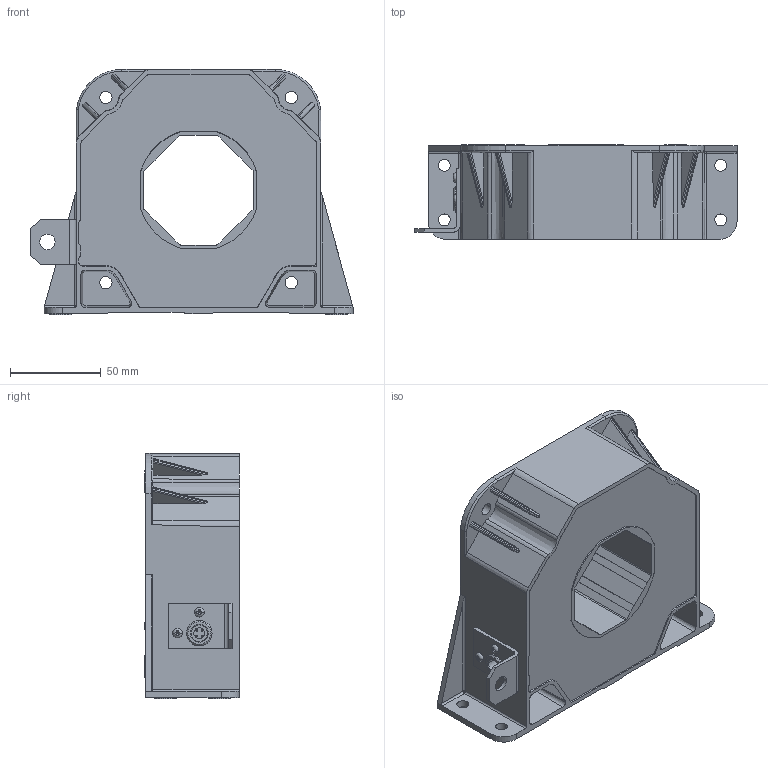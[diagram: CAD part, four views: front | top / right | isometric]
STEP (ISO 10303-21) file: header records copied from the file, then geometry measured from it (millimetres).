
FILE_DESCRIPTION(('CoCreate Modeling STEP Export'),'2;1');
FILE_NAME('LF 2005-S_SP1_blackbox.stp','2009-02-17T13:55:49',(''),(''),'CoCreate Modeling STEP processor for AP214 (Solid Model)','CoCreate Modeling 16.00A 16-Aug-2008 (C) Parametric Technology GmbH','');
FILE_SCHEMA(('AUTOMOTIVE_DESIGN { 1 0 10303 214 1 1 1 1 }'));
Length unit declared in the file: millimetre
Products named in the file (6): vis_PT_KA30x12.4; Boîtier_BLACKBOX; Ecran_type1; axson; connecteur; LF2005-S_SP1_blackbox
Assembly tree (6 placements, depth 2):
  LF2005-S_SP1_blackbox
    connecteur
    axson
    vis_PT_KA30x12.4  x2
    Ecran_type1
    Boîtier_BLACKBOX
Bounding box: 177.22 x 52 x 134.88 mm (x, y, z)
Volume: 678696.3 mm3; surface area: 114092.1 mm2
Topology: 6 solids, 6 shells, 1351 faces, 3715 edges, 2453 vertices
Faces by surface type: plane 1100, cylinder 148, cone 56, torus 20, bspline 17, extrusion 4, revolution 4, sphere 2
Entity records: 46998 total; most frequent: CARTESIAN_POINT 13402, ORIENTED_EDGE 7306, DIRECTION 6039, EDGE_CURVE 3653, VECTOR 3074, LINE 3070, VERTEX_POINT 2415, AXIS2_PLACEMENT_3D 1482
